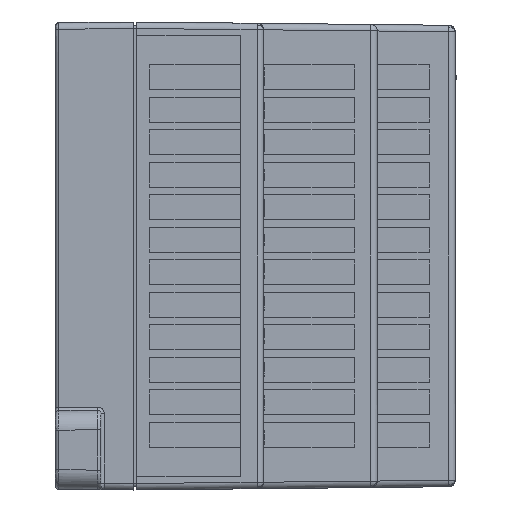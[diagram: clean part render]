
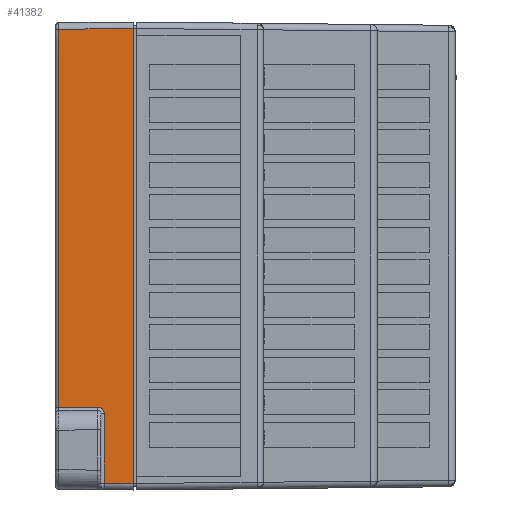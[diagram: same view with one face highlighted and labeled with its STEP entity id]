
A CAD part, front view. The second image highlights one B-rep face of the part: STEP entity #41382.
In plain terms, the highlighted planar face has unit normal (-0.011, -1, 0).
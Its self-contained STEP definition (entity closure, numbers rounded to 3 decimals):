
#1745 = ORIENTED_EDGE ( 'NONE', *, *, #8622, .T. ) ;
#6330 = CARTESIAN_POINT ( 'NONE',  ( -1.998, -44.984, -34.984 ) ) ;
#6672 = CARTESIAN_POINT ( 'NONE',  ( -3.497, -44.969, -34.969 ) ) ;
#7266 = CARTESIAN_POINT ( 'NONE',  ( -4.995, -44.953, -24.232 ) ) ;
#7867 = CARTESIAN_POINT ( 'NONE',  ( -4.995, -44.953, -24.232 ) ) ;
#8622 = EDGE_CURVE ( 'NONE', #76589, #13909, #55206, .T. ) ;
#12747 = CARTESIAN_POINT ( 'NONE',  ( -12.005, -44.88, 38.521 ) ) ;
#13042 = EDGE_CURVE ( 'NONE', #54238, #76589, #36947, .T. ) ;
#13242 = CARTESIAN_POINT ( 'NONE',  ( -5.505, -44.948, -23.227 ) ) ;
#13593 = DIRECTION ( 'NONE',  ( 1., -0.01, 0.01 ) ) ;
#13814 = ORIENTED_EDGE ( 'NONE', *, *, #50902, .F. ) ;
#13909 = VERTEX_POINT ( 'NONE', #27255 ) ;
#16266 = VERTEX_POINT ( 'NONE', #96249 ) ;
#17797 = ORIENTED_EDGE ( 'NONE', *, *, #103874, .T. ) ;
#20249 = DIRECTION ( 'NONE',  ( 0., 0., -1. ) ) ;
#20518 = EDGE_CURVE ( 'NONE', #54238, #16266, #61168, .T. ) ;
#21930 =( BOUNDED_CURVE ( )  B_SPLINE_CURVE ( 3, ( #7266, #31642, #72621, #23736 ),
 .UNSPECIFIED., .F., .F. ) 
 B_SPLINE_CURVE_WITH_KNOTS ( ( 4, 4 ),
 ( 3.142, 4.723 ),
 .UNSPECIFIED. ) 
 CURVE ( )  GEOMETRIC_REPRESENTATION_ITEM ( )  RATIONAL_B_SPLINE_CURVE ( ( 1., 0.802, 0.802, 1. ) ) 
 REPRESENTATION_ITEM ( '' )  );
#23736 = CARTESIAN_POINT ( 'NONE',  ( -6.005, -44.942, -23.232 ) ) ;
#24353 = CARTESIAN_POINT ( 'NONE',  ( -0.5, -45., 38.521 ) ) ;
#27080 = CARTESIAN_POINT ( 'NONE',  ( -0.5, -45., -35. ) ) ;
#27255 = CARTESIAN_POINT ( 'NONE',  ( -6.005, -44.942, -23.232 ) ) ;
#31642 = CARTESIAN_POINT ( 'NONE',  ( -4.995, -44.953, -23.641 ) ) ;
#32618 = DIRECTION ( 'NONE',  ( -1., 0.01, 0. ) ) ;
#34667 = VECTOR ( 'NONE', #89245, 1000. ) ;
#36947 = LINE ( 'NONE', #12747, #80331 ) ;
#37192 = B_SPLINE_CURVE_WITH_KNOTS ( 'NONE', 3,
 ( #47422, #6330, #6672, #63841 ),
 .UNSPECIFIED., .F., .F.,
 ( 4, 4 ),
 ( 0., 0.391 ),
 .UNSPECIFIED. ) ;
#37239 = LINE ( 'NONE', #56759, #34667 ) ;
#39419 = VECTOR ( 'NONE', #53686, 1000. ) ;
#41382 = ADVANCED_FACE ( 'NONE', ( #94118 ), #89359, .T. ) ;
#43811 = CARTESIAN_POINT ( 'NONE',  ( -12.005, -44.879, 34.88 ) ) ;
#47422 = CARTESIAN_POINT ( 'NONE',  ( -0.5, -45., -35. ) ) ;
#48239 = VECTOR ( 'NONE', #57547, 1000. ) ;
#49298 = CARTESIAN_POINT ( 'NONE',  ( -0.5, -45., 0. ) ) ;
#50804 = LINE ( 'NONE', #49298, #48239 ) ;
#50902 = EDGE_CURVE ( 'NONE', #16266, #55621, #50804, .T. ) ;
#53035 = AXIS2_PLACEMENT_3D ( 'NONE', #24353, #81477, #32618 ) ;
#53686 = DIRECTION ( 'NONE',  ( 1., -0.01, 0.01 ) ) ;
#54238 = VERTEX_POINT ( 'NONE', #43811 ) ;
#55206 = LINE ( 'NONE', #13242, #98625 ) ;
#55621 = VERTEX_POINT ( 'NONE', #27080 ) ;
#56759 = CARTESIAN_POINT ( 'NONE',  ( -4.995, -44.953, -34.948 ) ) ;
#56961 = EDGE_CURVE ( 'NONE', #55621, #80047, #37192, .T. ) ;
#57547 = DIRECTION ( 'NONE',  ( 0., 0., -1. ) ) ;
#57870 = VERTEX_POINT ( 'NONE', #7867 ) ;
#61168 = LINE ( 'NONE', #102550, #39419 ) ;
#63841 = CARTESIAN_POINT ( 'NONE',  ( -4.995, -44.953, -34.953 ) ) ;
#68037 = ORIENTED_EDGE ( 'NONE', *, *, #13042, .T. ) ;
#69782 = CARTESIAN_POINT ( 'NONE',  ( -12.005, -44.88, -23.295 ) ) ;
#70117 = ORIENTED_EDGE ( 'NONE', *, *, #56961, .F. ) ;
#72621 = CARTESIAN_POINT ( 'NONE',  ( -5.415, -44.949, -23.226 ) ) ;
#74805 = ORIENTED_EDGE ( 'NONE', *, *, #91247, .F. ) ;
#76589 = VERTEX_POINT ( 'NONE', #69782 ) ;
#77960 = ORIENTED_EDGE ( 'NONE', *, *, #20518, .F. ) ;
#80047 = VERTEX_POINT ( 'NONE', #105230 ) ;
#80331 = VECTOR ( 'NONE', #20249, 1000. ) ;
#81477 = DIRECTION ( 'NONE',  ( -0.01, -1., 0. ) ) ;
#83851 = EDGE_LOOP ( 'NONE', ( #68037, #1745, #74805, #17797, #70117, #13814, #77960 ) ) ;
#89245 = DIRECTION ( 'NONE',  ( 0., 0., -1. ) ) ;
#89359 = PLANE ( 'NONE',  #53035 ) ;
#91247 = EDGE_CURVE ( 'NONE', #57870, #13909, #21930, .T. ) ;
#94118 = FACE_OUTER_BOUND ( 'NONE', #83851, .T. ) ;
#96249 = CARTESIAN_POINT ( 'NONE',  ( -0.5, -45., 35. ) ) ;
#98625 = VECTOR ( 'NONE', #13593, 1000. ) ;
#102550 = CARTESIAN_POINT ( 'NONE',  ( -0.302, -45.002, 35.002 ) ) ;
#103874 = EDGE_CURVE ( 'NONE', #57870, #80047, #37239, .T. ) ;
#105230 = CARTESIAN_POINT ( 'NONE',  ( -4.995, -44.953, -34.953 ) ) ;
